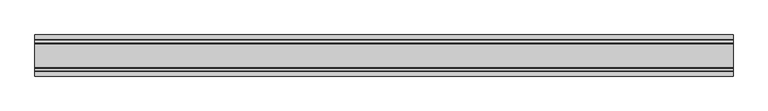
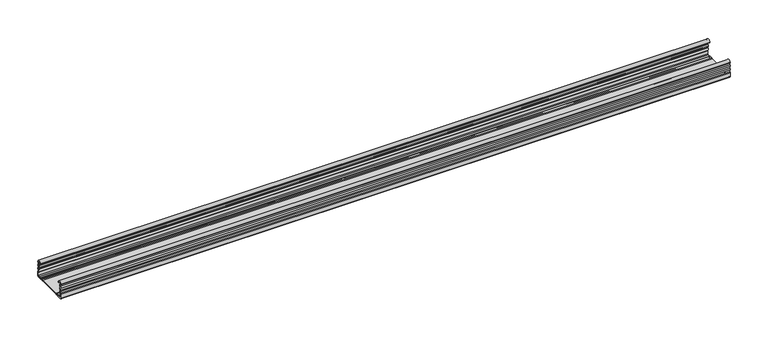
"""IFC4 building model written with IfcOpenShell, lengths in millimetres: proxy geometry, Несущий КНАУФ-профиль ПП 60х27 : Несущий КНАУФ-профиль ПП 60х27."""

from ifc_helpers import new_model, si_unit, point, frame, frame_2d, origin, place, context, project, spatial, polyline, circle_curve, trimmed, segment, composite_curve, outline, extrude, source, transform, mapped, element, save


def generic_models_cbf350fd(model_context):
    return source(origin(), model_context, "Body", "SweptSolid", [
        extrude(outline(composite_curve([segment(trimmed(circle_curve(frame_2d((30.75, 21.1911057)), 1.95), [point((29.424, 22.6208693))], [point((29.424, 19.7613421))], True, "CARTESIAN"), True, "CONTINUOUS"), segment(trimmed(circle_curve(frame_2d((28.2, 18.4415603)), 1.8), [point((29.424, 19.7613421))], [point((29.6853338, 17.4248088))], False, "CARTESIAN"), True, "CONTINUOUS"), segment(trimmed(circle_curve(frame_2d((30.75, 15.7911057)), 1.95), [point((29.6853338, 17.4248088))], [point((29.6853338, 14.1574026))], True, "CARTESIAN"), True, "CONTINUOUS"), segment(trimmed(circle_curve(frame_2d((28.2, 13.1406511)), 1.8), [point((29.6853338, 14.1574026))], [point((29.424, 11.8208693))], False, "CARTESIAN"), True, "CONTINUOUS"), segment(trimmed(circle_curve(frame_2d((30.75, 10.3911057)), 1.95), [point((29.424, 11.8208693))], [point((29.424, 8.9613421))], True, "CARTESIAN"), True, "CONTINUOUS"), segment(trimmed(circle_curve(frame_2d((28.2, 7.6415603)), 1.8), [point((29.424, 8.9613421))], [point((30.0, 7.6415603))], False, "CARTESIAN"), True, "CONTINUOUS"), segment(polyline([(30.0, 7.6415603), (30.0, 1.2)]), True, "CONTINUOUS"), segment(trimmed(circle_curve(frame_2d((28.8, 1.2)), 1.2), [point((30.0, 1.2))], [point((28.8, 0.0))], False, "CARTESIAN"), True, "CONTINUOUS"), segment(polyline([(28.8, 0.0), (23.4819519, 0.0)]), True, "CONTINUOUS"), segment(trimmed(circle_curve(frame_2d((23.4819519, 1.8)), 1.8), [point((23.4819519, 0.0))], [point((22.1621701, 0.576))], False, "CARTESIAN"), True, "CONTINUOUS"), segment(trimmed(circle_curve(frame_2d((20.7324065, -0.75)), 1.95), [point((22.1621701, 0.576))], [point((19.3026429, 0.576))], True, "CARTESIAN"), True, "CONTINUOUS"), segment(trimmed(circle_curve(frame_2d((17.9828611, 1.8)), 1.8), [point((19.3026429, 0.576))], [point((17.9828611, 0.0))], False, "CARTESIAN"), True, "CONTINUOUS"), segment(polyline([(17.9828611, 0.0), (-17.9828611, 0.0)]), True, "CONTINUOUS"), segment(trimmed(circle_curve(frame_2d((-17.9828611, 1.8)), 1.8), [point((-17.9828611, 0.0))], [point((-19.3026429, 0.576))], False, "CARTESIAN"), True, "CONTINUOUS"), segment(trimmed(circle_curve(frame_2d((-20.7324065, -0.75)), 1.95), [point((-19.3026429, 0.576))], [point((-22.1621701, 0.576))], True, "CARTESIAN"), True, "CONTINUOUS"), segment(trimmed(circle_curve(frame_2d((-23.4819519, 1.8)), 1.8), [point((-22.1621701, 0.576))], [point((-23.4819519, 0.0))], False, "CARTESIAN"), True, "CONTINUOUS"), segment(polyline([(-23.4819519, 0.0), (-28.8, 0.0)]), True, "CONTINUOUS"), segment(trimmed(circle_curve(frame_2d((-28.8, 1.2)), 1.2), [point((-28.8, 0.0))], [point((-30.0, 1.2))], False, "CARTESIAN"), True, "CONTINUOUS"), segment(polyline([(-30.0, 1.2), (-30.0, 7.6415603)]), True, "CONTINUOUS"), segment(trimmed(circle_curve(frame_2d((-28.2, 7.6415603)), 1.8), [point((-30.0, 7.6415603))], [point((-29.424, 8.9613421))], False, "CARTESIAN"), True, "CONTINUOUS"), segment(trimmed(circle_curve(frame_2d((-30.75, 10.3911057)), 1.95), [point((-29.424, 8.9613421))], [point((-29.424, 11.8208693))], True, "CARTESIAN"), True, "CONTINUOUS"), segment(trimmed(circle_curve(frame_2d((-28.2, 13.1406511)), 1.8), [point((-29.424, 11.8208693))], [point((-29.6853338, 14.1574026))], False, "CARTESIAN"), True, "CONTINUOUS"), segment(trimmed(circle_curve(frame_2d((-30.75, 15.7911057)), 1.95), [point((-29.6853338, 14.1574026))], [point((-29.6853338, 17.4248088))], True, "CARTESIAN"), True, "CONTINUOUS"), segment(trimmed(circle_curve(frame_2d((-28.2, 18.4415603)), 1.8), [point((-29.6853338, 17.4248088))], [point((-29.424, 19.7613421))], False, "CARTESIAN"), True, "CONTINUOUS"), segment(trimmed(circle_curve(frame_2d((-30.75, 21.1911057)), 1.95), [point((-29.424, 19.7613421))], [point((-29.424, 22.6208693))], True, "CARTESIAN"), True, "CONTINUOUS"), segment(trimmed(circle_curve(frame_2d((-28.2, 23.9406511)), 1.8), [point((-29.424, 22.6208693))], [point((-29.9990651, 23.8826448))], False, "CARTESIAN"), True, "CONTINUOUS"), segment(trimmed(circle_curve(frame_2d((-26.8817099, 23.8826448)), 3.1173552), [point((-29.9990651, 23.8826448))], [point((-23.7643548, 23.8826448))], False, "CARTESIAN"), True, "CONTINUOUS"), segment(polyline([(-23.7643548, 23.8826448), (-23.7643548, 23.0407729), (-24.9643548, 23.0407729), (-24.9643548, 23.8826448)]), True, "CONTINUOUS"), segment(trimmed(circle_curve(frame_2d((-26.8817099, 23.8826448)), 1.9173552), [point((-24.9643548, 23.8826448))], [point((-28.7514388, 24.3073386))], True, "CARTESIAN"), True, "CONTINUOUS"), segment(trimmed(circle_curve(frame_2d((-27.7762784, 24.0858388)), 1.0), [point((-28.7514388, 24.3073386))], [point((-28.4928378, 23.3883128))], True, "CARTESIAN"), True, "CONTINUOUS"), segment(trimmed(circle_curve(frame_2d((-30.75, 21.1911057)), 3.15), [point((-28.4928378, 23.3883128))], [point((-28.3578316, 19.1417081))], False, "CARTESIAN"), True, "CONTINUOUS"), segment(trimmed(circle_curve(frame_2d((-27.5984131, 18.4911057)), 1.0), [point((-28.3578316, 19.1417081))], [point((-28.3578316, 17.8405033))], True, "CARTESIAN"), True, "CONTINUOUS"), segment(trimmed(circle_curve(frame_2d((-30.75, 15.7911057)), 3.15), [point((-28.3578316, 17.8405033))], [point((-28.3578316, 13.7417081))], False, "CARTESIAN"), True, "CONTINUOUS"), segment(trimmed(circle_curve(frame_2d((-27.5984131, 13.0911057)), 1.0), [point((-28.3578316, 13.7417081))], [point((-28.3578316, 12.4405033))], True, "CARTESIAN"), True, "CONTINUOUS"), segment(trimmed(circle_curve(frame_2d((-30.75, 10.3911057)), 3.15), [point((-28.3578316, 12.4405033))], [point((-28.3339806, 8.3698808))], False, "CARTESIAN"), True, "CONTINUOUS"), segment(trimmed(circle_curve(frame_2d((-26.8, 7.0865634)), 2.0), [point((-28.3339806, 8.3698808))], [point((-28.8, 7.0865634))], True, "CARTESIAN"), True, "CONTINUOUS"), segment(polyline([(-28.8, 7.0865634), (-28.8, 2.4)]), True, "CONTINUOUS"), segment(trimmed(circle_curve(frame_2d((-27.6, 2.4)), 1.2), [point((-28.8, 2.4))], [point((-27.6, 1.2))], True, "CARTESIAN"), True, "CONTINUOUS"), segment(polyline([(-27.6, 1.2), (-24.382064, 1.2)]), True, "CONTINUOUS"), segment(trimmed(circle_curve(frame_2d((-24.382064, 4.2)), 3.0), [point((-24.382064, 1.2))], [point((-22.6017433, 1.7853659))], True, "CARTESIAN"), True, "CONTINUOUS"), segment(trimmed(circle_curve(frame_2d((-20.7324065, -0.75)), 3.15), [point((-22.6017433, 1.7853659))], [point((-18.8630697, 1.7853659))], False, "CARTESIAN"), True, "CONTINUOUS"), segment(trimmed(circle_curve(frame_2d((-17.082749, 4.2)), 3.0), [point((-18.8630697, 1.7853659))], [point((-17.082749, 1.2))], True, "CARTESIAN"), True, "CONTINUOUS"), segment(polyline([(-17.082749, 1.2), (17.082749, 1.2)]), True, "CONTINUOUS"), segment(trimmed(circle_curve(frame_2d((17.082749, 4.2)), 3.0), [point((17.082749, 1.2))], [point((18.8630697, 1.7853659))], True, "CARTESIAN"), True, "CONTINUOUS"), segment(trimmed(circle_curve(frame_2d((20.7324065, -0.75)), 3.15), [point((18.8630697, 1.7853659))], [point((22.6017433, 1.7853659))], False, "CARTESIAN"), True, "CONTINUOUS"), segment(trimmed(circle_curve(frame_2d((24.382064, 4.2)), 3.0), [point((22.6017433, 1.7853659))], [point((24.382064, 1.2))], True, "CARTESIAN"), True, "CONTINUOUS"), segment(polyline([(24.382064, 1.2), (27.6182196, 1.2)]), True, "CONTINUOUS"), segment(trimmed(circle_curve(frame_2d((27.6182196, 2.3817804)), 1.1817804), [point((27.6182196, 1.2))], [point((28.8, 2.3817804))], True, "CARTESIAN"), True, "CONTINUOUS"), segment(polyline([(28.8, 2.3817804), (28.8, 7.0865634)]), True, "CONTINUOUS"), segment(trimmed(circle_curve(frame_2d((26.8, 7.0865634)), 2.0), [point((28.8, 7.0865634))], [point((28.3339806, 8.3698808))], True, "CARTESIAN"), True, "CONTINUOUS"), segment(trimmed(circle_curve(frame_2d((30.75, 10.3911057)), 3.15), [point((28.3339806, 8.3698808))], [point((28.3578316, 12.4405033))], False, "CARTESIAN"), True, "CONTINUOUS"), segment(trimmed(circle_curve(frame_2d((27.5984131, 13.0911057)), 1.0), [point((28.3578316, 12.4405033))], [point((28.3578316, 13.7417081))], True, "CARTESIAN"), True, "CONTINUOUS"), segment(trimmed(circle_curve(frame_2d((30.75, 15.7911057)), 3.15), [point((28.3578316, 13.7417081))], [point((28.3578316, 17.8405033))], False, "CARTESIAN"), True, "CONTINUOUS"), segment(trimmed(circle_curve(frame_2d((27.5984131, 18.4911057)), 1.0), [point((28.3578316, 17.8405033))], [point((28.3578316, 19.1417081))], True, "CARTESIAN"), True, "CONTINUOUS"), segment(trimmed(circle_curve(frame_2d((30.75, 21.1911057)), 3.15), [point((28.3578316, 19.1417081))], [point((28.4928378, 23.3883128))], False, "CARTESIAN"), True, "CONTINUOUS"), segment(trimmed(circle_curve(frame_2d((27.7762784, 24.0858388)), 1.0), [point((28.4928378, 23.3883128))], [point((28.7514388, 24.3073386))], True, "CARTESIAN"), True, "CONTINUOUS"), segment(trimmed(circle_curve(frame_2d((26.8817099, 23.8826448)), 1.9173552), [point((28.7514388, 24.3073386))], [point((24.9643548, 23.8826448))], True, "CARTESIAN"), True, "CONTINUOUS"), segment(polyline([(24.9643548, 23.8826448), (24.9643548, 23.0407729), (23.7643548, 23.0407729), (23.7643548, 23.8826448)]), True, "CONTINUOUS"), segment(trimmed(circle_curve(frame_2d((26.8817099, 23.8826448)), 3.1173552), [point((23.7643548, 23.8826448))], [point((29.9990651, 23.8826448))], False, "CARTESIAN"), True, "CONTINUOUS"), segment(trimmed(circle_curve(frame_2d((28.2, 23.9406511)), 1.8), [point((29.9990651, 23.8826448))], [point((29.424, 22.6208693))], False, "CARTESIAN"), True, "CONTINUOUS")], self_intersect=False)), frame((-509.2723829, 0.0, 0.0), z_axis=(1.0, 0.0, 0.0), x_axis=(0.0, 1.0, 0.0)), (0.0, 0.0, 1.0), 1018.5447657),
    ])


if __name__ == "__main__":
    model = new_model("IFC4")
    model_context = context("Model", 3, world=origin())
    ifc_project = project(units=[si_unit("LENGTHUNIT", "METRE", prefix="MILLI")], contexts=[model_context])
    site = spatial("IfcSite", under=ifc_project)
    building = spatial("IfcBuilding", under=site)
    placement = place(None, origin())
    generic_models_shape = generic_models_cbf350fd(model_context)
    element("IfcBuildingElementProxy", 1, Name="Несущий КНАУФ-профиль ПП 60х27 : Несущий КНАУФ-профиль ПП 60х27", ObjectType="Несущий КНАУФ-профиль ПП 60х27 : Несущий КНАУФ-профиль ПП 60х27", at=placement, inside=building, context=model_context, shape_type="MappedRepresentation", body=[
        mapped(generic_models_shape, transform((0.0, 0.0, 0.0), x_axis=(1.0, 0.0, 0.0), y_axis=(0.0, 1.0, 0.0), z_axis=(0.0, 0.0, 1.0))),
    ])
    save(model, "model.ifc")
